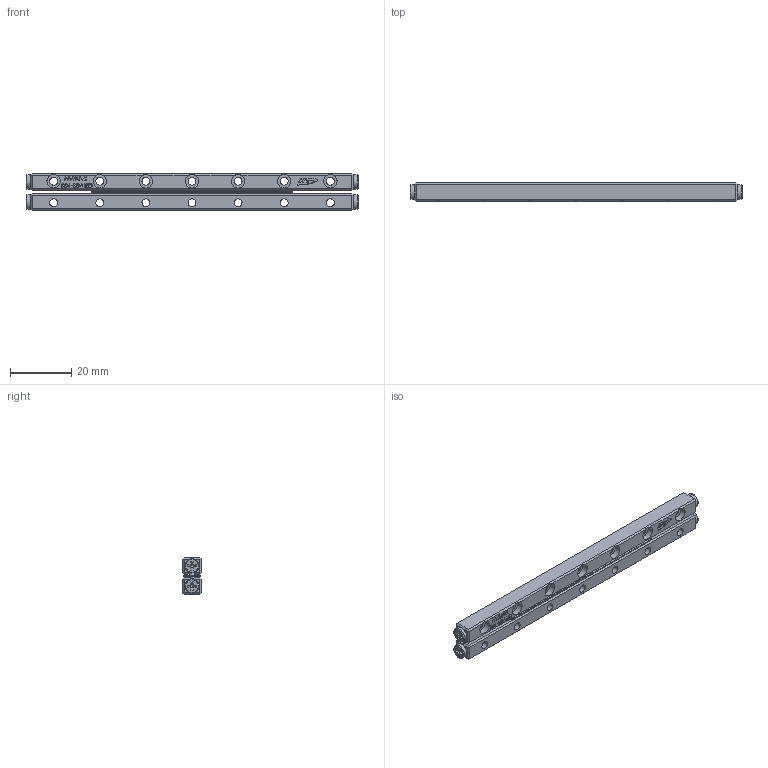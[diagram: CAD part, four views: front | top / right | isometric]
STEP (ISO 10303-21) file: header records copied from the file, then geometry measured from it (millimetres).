
FILE_DESCRIPTION (( 'STEP AP203' ), '1' );
FILE_NAME ('GRV02-105.STEP', '2023-08-18T00:29:38', ( '' ), ( '' ), 'SwSTEP 2.0', 'SolidWorks 2019', '' );
FILE_SCHEMA (( 'CONFIG_CONTROL_DESIGN' ));
Length unit declared in the file: millimetre
Products named in the file (3): GRV02-105-模糊化保持器組; GRV02-105; GRV02-105-模糊化軌道
Assembly tree (3 placements, depth 2):
  GRV02-105
    GRV02-105-模糊化軌道  x2
    GRV02-105-模糊化保持器組
Bounding box: 108 x 6 x 12 mm (x, y, z)
Volume: 6128.4 mm3; surface area: 6746.9 mm2
Topology: 3 solids, 3 shells, 1144 faces, 2952 edges, 1928 vertices
Faces by surface type: plane 774, cylinder 178, bspline 116, torus 40, cone 36
Full cylindrical faces by diameter (mm): 2.55 x14, 4.4 x14, 4.7 x4
Entity records: 27842 total; most frequent: CARTESIAN_POINT 9020, ORIENTED_EDGE 4098, DIRECTION 3370, EDGE_CURVE 2049, VERTEX_POINT 1359, LINE 1312, VECTOR 1312, AXIS2_PLACEMENT_3D 1029
